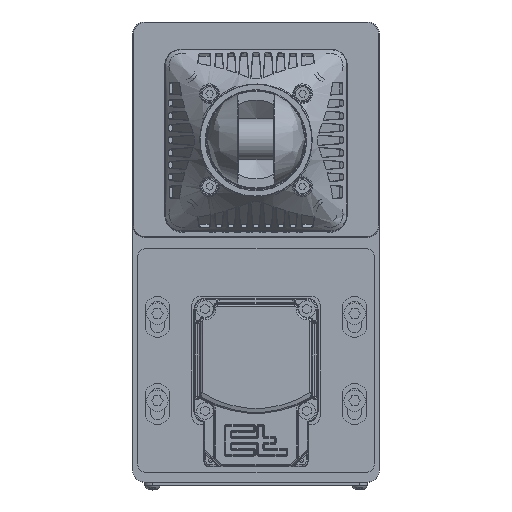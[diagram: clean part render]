
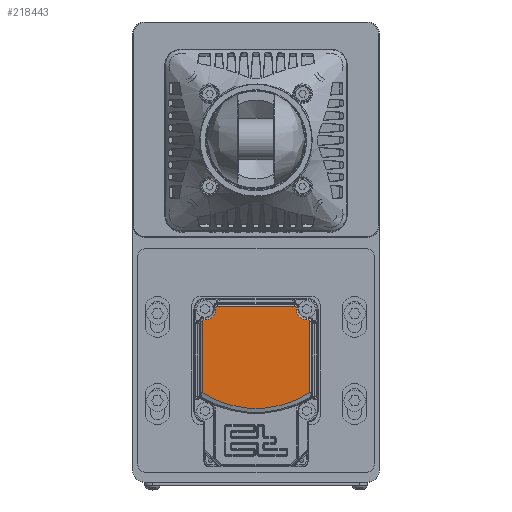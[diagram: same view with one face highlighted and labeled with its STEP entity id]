
A CAD part, top view. The second image highlights one B-rep face of the part: STEP entity #218443.
In plain terms, the highlighted planar face has unit normal (0, 0, 1).
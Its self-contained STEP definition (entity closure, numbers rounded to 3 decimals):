
#3499 = CARTESIAN_POINT ( 'NONE',  ( 332.579, 86.068, 448.429 ) ) ;
#3852 = VECTOR ( 'NONE', #233653, 1000. ) ;
#4173 = CARTESIAN_POINT ( 'NONE',  ( 326.096, 86.786, 448.429 ) ) ;
#4309 = CARTESIAN_POINT ( 'NONE',  ( 268.862, 78.586, 448.429 ) ) ;
#4850 = VERTEX_POINT ( 'NONE', #227065 ) ;
#7021 = EDGE_CURVE ( 'NONE', #195152, #120741, #96528, .T. ) ;
#12123 = VERTEX_POINT ( 'NONE', #14390 ) ;
#12720 = ORIENTED_EDGE ( 'NONE', *, *, #181950, .T. ) ;
#14390 = CARTESIAN_POINT ( 'NONE',  ( 278.062, 87.786, 448.429 ) ) ;
#15930 = ORIENTED_EDGE ( 'NONE', *, *, #51724, .T. ) ;
#17492 = ORIENTED_EDGE ( 'NONE', *, *, #110112, .T. ) ;
#22603 = CARTESIAN_POINT ( 'NONE',  ( 269.862, 79.586, 448.429 ) ) ;
#28378 = EDGE_CURVE ( 'NONE', #4850, #49289, #158495, .T. ) ;
#32553 = CARTESIAN_POINT ( 'NONE',  ( 277.062, 86.786, 448.429 ) ) ;
#32829 = FACE_OUTER_BOUND ( 'NONE', #229398, .T. ) ;
#34006 = VECTOR ( 'NONE', #45092, 1000. ) ;
#34604 = LINE ( 'NONE', #85203, #3852 ) ;
#35166 = CARTESIAN_POINT ( 'NONE',  ( 325.682, 87.786, 448.429 ) ) ;
#35703 = VECTOR ( 'NONE', #78767, 1000. ) ;
#36403 = CARTESIAN_POINT ( 'NONE',  ( 270.579, 79.586, 448.429 ) ) ;
#45092 = DIRECTION ( 'NONE',  ( 0., 1., 0. ) ) ;
#46416 = CIRCLE ( 'NONE', #84843, 6.483 ) ;
#49289 = VERTEX_POINT ( 'NONE', #209680 ) ;
#51724 = EDGE_CURVE ( 'NONE', #77370, #12123, #234887, .T. ) ;
#51869 = ORIENTED_EDGE ( 'NONE', *, *, #7021, .T. ) ;
#54976 = CARTESIAN_POINT ( 'NONE',  ( 326.096, 86.068, 448.429 ) ) ;
#56844 = CARTESIAN_POINT ( 'NONE',  ( 268.862, 78.586, 448.429 ) ) ;
#57481 = VECTOR ( 'NONE', #100078, 1000. ) ;
#59979 = ORIENTED_EDGE ( 'NONE', *, *, #95905, .T. ) ;
#60681 =( BOUNDED_CURVE ( )  B_SPLINE_CURVE ( 3, ( #119413, #192426, #91722, #56844 ),
 .UNSPECIFIED., .F., .F. ) 
 B_SPLINE_CURVE_WITH_KNOTS ( ( 4, 4 ),
 ( 2.356, 3.927 ),
 .UNSPECIFIED. ) 
 CURVE ( )  GEOMETRIC_REPRESENTATION_ITEM ( )  RATIONAL_B_SPLINE_CURVE ( ( 1., 0.805, 0.805, 1. ) ) 
 REPRESENTATION_ITEM ( '' )  );
#60777 = LINE ( 'NONE', #190195, #35703 ) ;
#67164 = CIRCLE ( 'NONE', #216183, 6.483 ) ;
#67809 = CARTESIAN_POINT ( 'NONE',  ( 270.579, 86.068, 448.429 ) ) ;
#72977 = EDGE_CURVE ( 'NONE', #173909, #195152, #93246, .T. ) ;
#74838 = CARTESIAN_POINT ( 'NONE',  ( 334.296, 35.122, 448.429 ) ) ;
#77370 = VERTEX_POINT ( 'NONE', #161315 ) ;
#78767 = DIRECTION ( 'NONE',  ( 0., -1., 0. ) ) ;
#79218 = DIRECTION ( 'NONE',  ( 0., 0., -1. ) ) ;
#82307 = LINE ( 'NONE', #119486, #34006 ) ;
#84102 = CARTESIAN_POINT ( 'NONE',  ( 278.079, 87.786, 448.429 ) ) ;
#84234 = CARTESIAN_POINT ( 'NONE',  ( 333.297, 79.586, 448.429 ) ) ;
#84843 = AXIS2_PLACEMENT_3D ( 'NONE', #3499, #79218, #225372 ) ;
#85203 = CARTESIAN_POINT ( 'NONE',  ( 269.879, 79.586, 448.429 ) ) ;
#87574 = VERTEX_POINT ( 'NONE', #22603 ) ;
#89303 = CARTESIAN_POINT ( 'NONE',  ( 326.096, 86.786, 448.429 ) ) ;
#90825 = CARTESIAN_POINT ( 'NONE',  ( 334.296, 78.586, 448.429 ) ) ;
#91722 = CARTESIAN_POINT ( 'NONE',  ( 268.862, 79.172, 448.429 ) ) ;
#92523 = EDGE_CURVE ( 'NONE', #12123, #4850, #177927, .T. ) ;
#93246 = CIRCLE ( 'NONE', #181365, 60.8 ) ;
#95905 = EDGE_CURVE ( 'NONE', #208225, #209573, #82307, .T. ) ;
#96528 = LINE ( 'NONE', #192238, #57481 ) ;
#100078 = DIRECTION ( 'NONE',  ( 0., 1., 0. ) ) ;
#100270 = DIRECTION ( 'NONE',  ( 0., 1., 0. ) ) ;
#104861 = ORIENTED_EDGE ( 'NONE', *, *, #132566, .T. ) ;
#105503 =( BOUNDED_CURVE ( )  B_SPLINE_CURVE ( 3, ( #89303, #198282, #35166, #162480 ),
 .UNSPECIFIED., .F., .F. ) 
 B_SPLINE_CURVE_WITH_KNOTS ( ( 4, 4 ),
 ( 2.356, 3.927 ),
 .UNSPECIFIED. ) 
 CURVE ( )  GEOMETRIC_REPRESENTATION_ITEM ( )  RATIONAL_B_SPLINE_CURVE ( ( 1., 0.805, 0.805, 1. ) ) 
 REPRESENTATION_ITEM ( '' )  );
#106123 = PLANE ( 'NONE',  #214045 ) ;
#106378 = ORIENTED_EDGE ( 'NONE', *, *, #72977, .T. ) ;
#106616 = ORIENTED_EDGE ( 'NONE', *, *, #143337, .T. ) ;
#110112 = EDGE_CURVE ( 'NONE', #182120, #87574, #34604, .T. ) ;
#110648 = EDGE_CURVE ( 'NONE', #231849, #208225, #46416, .T. ) ;
#112063 = EDGE_CURVE ( 'NONE', #173544, #173909, #60777, .T. ) ;
#115028 = CARTESIAN_POINT ( 'NONE',  ( 301.579, 86.368, 448.429 ) ) ;
#119287 = EDGE_CURVE ( 'NONE', #87574, #173544, #60681, .T. ) ;
#119413 = CARTESIAN_POINT ( 'NONE',  ( 269.862, 79.586, 448.429 ) ) ;
#119486 = CARTESIAN_POINT ( 'NONE',  ( 326.096, 86.769, 448.429 ) ) ;
#120741 = VERTEX_POINT ( 'NONE', #90825 ) ;
#123791 = ORIENTED_EDGE ( 'NONE', *, *, #110648, .T. ) ;
#128896 = DIRECTION ( 'NONE',  ( 0., 1., 0. ) ) ;
#131218 = CARTESIAN_POINT ( 'NONE',  ( 264.079, 92.568, 448.429 ) ) ;
#132566 = EDGE_CURVE ( 'NONE', #147899, #231849, #145707, .T. ) ;
#139406 = CARTESIAN_POINT ( 'NONE',  ( 334.296, 79.172, 448.429 ) ) ;
#140614 = CARTESIAN_POINT ( 'NONE',  ( 333.882, 79.586, 448.429 ) ) ;
#143337 = EDGE_CURVE ( 'NONE', #209573, #77370, #105503, .T. ) ;
#144505 = CARTESIAN_POINT ( 'NONE',  ( 332.579, 79.586, 448.429 ) ) ;
#145707 = LINE ( 'NONE', #199509, #214957 ) ;
#146106 =( BOUNDED_CURVE ( )  B_SPLINE_CURVE ( 3, ( #230333, #139406, #140614, #84234 ),
 .UNSPECIFIED., .F., .T. ) 
 B_SPLINE_CURVE_WITH_KNOTS ( ( 4, 4 ),
 ( 2.356, 3.927 ),
 .UNSPECIFIED. ) 
 CURVE ( )  GEOMETRIC_REPRESENTATION_ITEM ( )  RATIONAL_B_SPLINE_CURVE ( ( 1., 0.805, 0.805, 1. ) ) 
 REPRESENTATION_ITEM ( '' )  );
#147899 = VERTEX_POINT ( 'NONE', #219211 ) ;
#156140 = ORIENTED_EDGE ( 'NONE', *, *, #119287, .T. ) ;
#157271 = DIRECTION ( 'NONE',  ( -1., 0., 0. ) ) ;
#158495 = LINE ( 'NONE', #191973, #234577 ) ;
#159333 = VECTOR ( 'NONE', #157271, 1000. ) ;
#161315 = CARTESIAN_POINT ( 'NONE',  ( 325.097, 87.786, 448.429 ) ) ;
#162480 = CARTESIAN_POINT ( 'NONE',  ( 325.097, 87.786, 448.429 ) ) ;
#172619 = DIRECTION ( 'NONE',  ( 0., 1., 0. ) ) ;
#173544 = VERTEX_POINT ( 'NONE', #4309 ) ;
#173909 = VERTEX_POINT ( 'NONE', #236459 ) ;
#174598 = DIRECTION ( 'NONE',  ( 0., 0., -1. ) ) ;
#177811 = CARTESIAN_POINT ( 'NONE',  ( 277.476, 87.786, 448.429 ) ) ;
#177927 =( BOUNDED_CURVE ( )  B_SPLINE_CURVE ( 3, ( #196824, #177811, #233940, #32553 ),
 .UNSPECIFIED., .F., .F. ) 
 B_SPLINE_CURVE_WITH_KNOTS ( ( 4, 4 ),
 ( 2.356, 3.927 ),
 .UNSPECIFIED. ) 
 CURVE ( )  GEOMETRIC_REPRESENTATION_ITEM ( )  RATIONAL_B_SPLINE_CURVE ( ( 1., 0.805, 0.805, 1. ) ) 
 REPRESENTATION_ITEM ( '' )  );
#181365 = AXIS2_PLACEMENT_3D ( 'NONE', #115028, #227555, #172619 ) ;
#181950 = EDGE_CURVE ( 'NONE', #49289, #182120, #67164, .T. ) ;
#182120 = VERTEX_POINT ( 'NONE', #36403 ) ;
#182764 = DIRECTION ( 'NONE',  ( 0., 0., 1. ) ) ;
#186081 = ORIENTED_EDGE ( 'NONE', *, *, #217086, .T. ) ;
#190195 = CARTESIAN_POINT ( 'NONE',  ( 268.862, 35.763, 448.429 ) ) ;
#191973 = CARTESIAN_POINT ( 'NONE',  ( 277.062, 86.068, 448.429 ) ) ;
#192238 = CARTESIAN_POINT ( 'NONE',  ( 334.296, 78.569, 448.429 ) ) ;
#192426 = CARTESIAN_POINT ( 'NONE',  ( 269.276, 79.586, 448.429 ) ) ;
#194974 = ORIENTED_EDGE ( 'NONE', *, *, #92523, .T. ) ;
#195152 = VERTEX_POINT ( 'NONE', #74838 ) ;
#196824 = CARTESIAN_POINT ( 'NONE',  ( 278.062, 87.786, 448.429 ) ) ;
#198282 = CARTESIAN_POINT ( 'NONE',  ( 326.096, 87.372, 448.429 ) ) ;
#199509 = CARTESIAN_POINT ( 'NONE',  ( 332.579, 79.586, 448.429 ) ) ;
#208225 = VERTEX_POINT ( 'NONE', #54976 ) ;
#209573 = VERTEX_POINT ( 'NONE', #4173 ) ;
#209680 = CARTESIAN_POINT ( 'NONE',  ( 277.062, 86.068, 448.429 ) ) ;
#211400 = ORIENTED_EDGE ( 'NONE', *, *, #112063, .T. ) ;
#212241 = ORIENTED_EDGE ( 'NONE', *, *, #28378, .T. ) ;
#214045 = AXIS2_PLACEMENT_3D ( 'NONE', #131218, #182764, #128896 ) ;
#214957 = VECTOR ( 'NONE', #218654, 1000. ) ;
#216183 = AXIS2_PLACEMENT_3D ( 'NONE', #67809, #174598, #100270 ) ;
#217086 = EDGE_CURVE ( 'NONE', #120741, #147899, #146106, .T. ) ;
#218443 = ADVANCED_FACE ( 'NONE', ( #32829 ), #106123, .T. ) ;
#218654 = DIRECTION ( 'NONE',  ( -1., 0., 0. ) ) ;
#219211 = CARTESIAN_POINT ( 'NONE',  ( 333.297, 79.586, 448.429 ) ) ;
#225372 = DIRECTION ( 'NONE',  ( 0., 1., 0. ) ) ;
#227065 = CARTESIAN_POINT ( 'NONE',  ( 277.062, 86.786, 448.429 ) ) ;
#227555 = DIRECTION ( 'NONE',  ( 0., 0., 1. ) ) ;
#229398 = EDGE_LOOP ( 'NONE', ( #156140, #211400, #106378, #51869, #186081, #104861, #123791, #59979, #106616, #15930, #194974, #212241, #12720, #17492 ) ) ;
#230333 = CARTESIAN_POINT ( 'NONE',  ( 334.296, 78.586, 448.429 ) ) ;
#231451 = DIRECTION ( 'NONE',  ( 0., -1., 0. ) ) ;
#231849 = VERTEX_POINT ( 'NONE', #144505 ) ;
#233653 = DIRECTION ( 'NONE',  ( -1., 0., 0. ) ) ;
#233940 = CARTESIAN_POINT ( 'NONE',  ( 277.062, 87.372, 448.429 ) ) ;
#234577 = VECTOR ( 'NONE', #231451, 1000. ) ;
#234887 = LINE ( 'NONE', #84102, #159333 ) ;
#236459 = CARTESIAN_POINT ( 'NONE',  ( 268.862, 35.122, 448.429 ) ) ;
